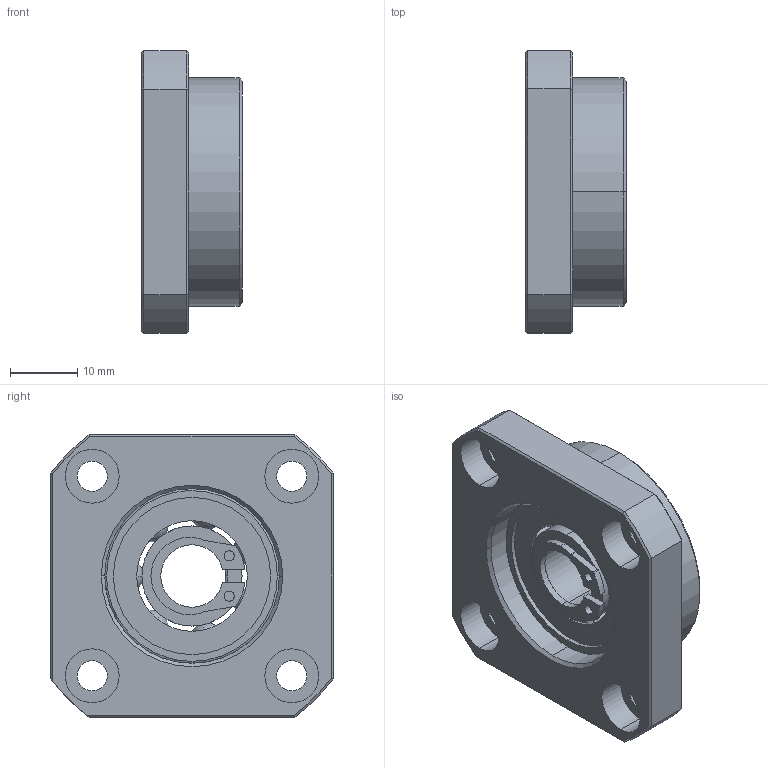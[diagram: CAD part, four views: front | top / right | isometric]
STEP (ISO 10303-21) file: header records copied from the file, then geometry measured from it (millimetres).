
FILE_DESCRIPTION (( 'STEP AP214' ), '1' );
FILE_NAME ('7.4024 FF12.STEP', '2026-03-06T07:49:29', ( '' ), ( '' ), 'SwSTEP 2.0', 'SolidWorks 2025', '' );
FILE_SCHEMA (( 'AUTOMOTIVE_DESIGN' ));
Length unit declared in the file: millimetre
Products named in the file (1): 7.4024 FF12
Bounding box: 15 x 42 x 42 mm (x, y, z)
Volume: 12443.3 mm3; surface area: 9712.2 mm2
Topology: 3 solids, 3 shells, 288 faces, 811 edges, 528 vertices
Faces by surface type: sphere 84, plane 76, cylinder 64, torus 34, bspline 17, cone 13
Entity records: 18073 total; most frequent: CARTESIAN_POINT 8741, ORIENTED_EDGE 1622, DIRECTION 1418, EDGE_CURVE 811, AXIS2_PLACEMENT_3D 613, VERTEX_POINT 528, CIRCLE 341, EDGE_LOOP 331
